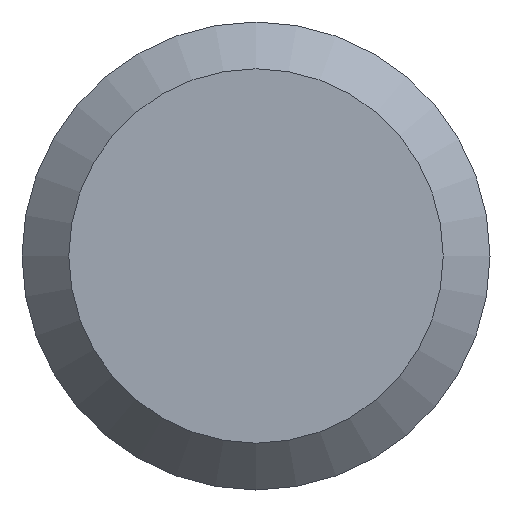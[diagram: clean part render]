
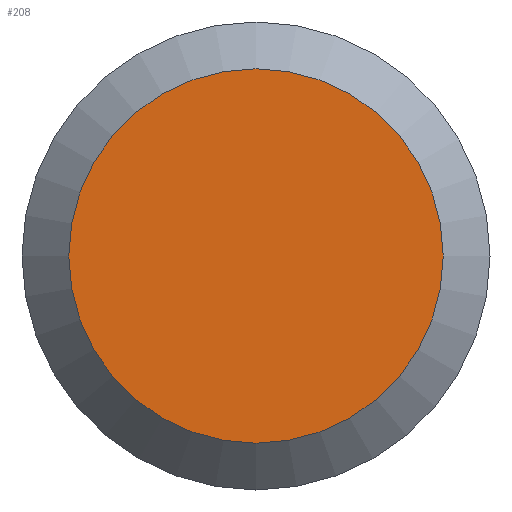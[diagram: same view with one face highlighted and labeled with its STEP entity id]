
A CAD part, left-side view. The second image highlights one B-rep face of the part: STEP entity #208.
In plain terms, the highlighted planar face has unit normal (-1, 0, 0).
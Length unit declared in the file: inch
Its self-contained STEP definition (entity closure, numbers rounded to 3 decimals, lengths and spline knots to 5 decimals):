
#27 = FACE_OUTER_BOUND ( 'NONE', #136, .T. ) ;
#35 = ORIENTED_EDGE ( 'NONE', *, *, #248, .T. ) ;
#36 = CARTESIAN_POINT ( 'NONE',  ( 0., 0., 0. ) ) ;
#50 = CIRCLE ( 'NONE', #229, 0.15625 ) ;
#87 = AXIS2_PLACEMENT_3D ( 'NONE', #219, #133, #139 ) ;
#128 = VERTEX_POINT ( 'NONE', #215 ) ;
#131 = PLANE ( 'NONE',  #87 ) ;
#133 = DIRECTION ( 'NONE',  ( 1., 0., 0. ) ) ;
#136 = EDGE_LOOP ( 'NONE', ( #35 ) ) ;
#139 = DIRECTION ( 'NONE',  ( 0., 0., -1. ) ) ;
#196 = DIRECTION ( 'NONE',  ( 0., 0., -1. ) ) ;
#201 = DIRECTION ( 'NONE',  ( -1., 0., 0. ) ) ;
#208 = ADVANCED_FACE ( 'NONE', ( #27 ), #131, .F. ) ;
#215 = CARTESIAN_POINT ( 'NONE',  ( 0., 0., -0.15625 ) ) ;
#219 = CARTESIAN_POINT ( 'NONE',  ( 0., 0.19531, 0. ) ) ;
#229 = AXIS2_PLACEMENT_3D ( 'NONE', #36, #201, #196 ) ;
#248 = EDGE_CURVE ( 'NONE', #128, #128, #50, .T. ) ;
